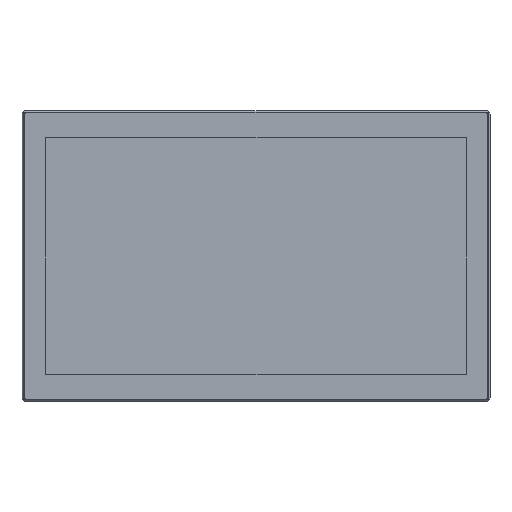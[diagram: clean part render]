
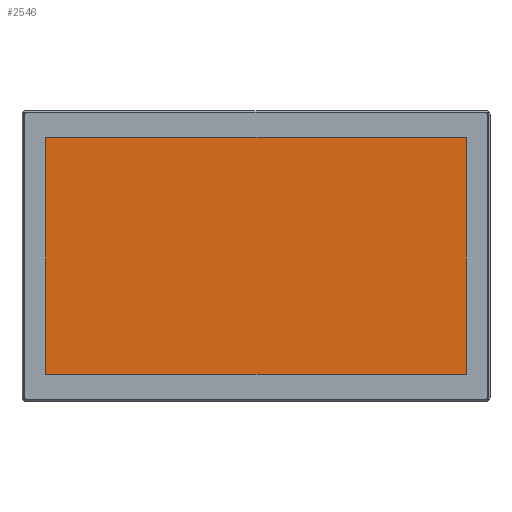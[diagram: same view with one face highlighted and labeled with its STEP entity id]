
A CAD part, top view. The second image highlights one B-rep face of the part: STEP entity #2546.
In plain terms, the highlighted planar face has unit normal (0, 0, 1).
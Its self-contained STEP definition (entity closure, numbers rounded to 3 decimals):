
#2546 = ADVANCED_FACE ( 'NONE', ( #81541 ), #99015, .T. ) ;
#3501 = VERTEX_POINT ( 'NONE', #55851 ) ;
#4758 = DIRECTION ( 'NONE',  ( 0., -1., 0. ) ) ;
#4772 = AXIS2_PLACEMENT_3D ( 'NONE', #98644, #12877, #108549 ) ;
#6421 = VECTOR ( 'NONE', #19416, 1000. ) ;
#12877 = DIRECTION ( 'NONE',  ( 0., 0., 1. ) ) ;
#14283 = EDGE_LOOP ( 'NONE', ( #92378, #95610, #105485, #28415 ) ) ;
#17132 = CARTESIAN_POINT ( 'NONE',  ( 27.18, 300.155, 65.84 ) ) ;
#19416 = DIRECTION ( 'NONE',  ( 0., 1., 0. ) ) ;
#21371 = LINE ( 'NONE', #105991, #6421 ) ;
#25665 = LINE ( 'NONE', #60505, #108880 ) ;
#28415 = ORIENTED_EDGE ( 'NONE', *, *, #77626, .T. ) ;
#31008 = CARTESIAN_POINT ( 'NONE',  ( 27.18, 4., 65.84 ) ) ;
#38053 = LINE ( 'NONE', #41625, #87243 ) ;
#41625 = CARTESIAN_POINT ( 'NONE',  ( 4., 30.445, 65.84 ) ) ;
#52038 = VECTOR ( 'NONE', #4758, 1000. ) ;
#54311 = VERTEX_POINT ( 'NONE', #94602 ) ;
#55615 = EDGE_CURVE ( 'NONE', #3501, #109895, #25665, .T. ) ;
#55851 = CARTESIAN_POINT ( 'NONE',  ( 505.42, 300.155, 65.84 ) ) ;
#56033 = LINE ( 'NONE', #31008, #52038 ) ;
#60505 = CARTESIAN_POINT ( 'NONE',  ( 4., 300.155, 65.84 ) ) ;
#67739 = CARTESIAN_POINT ( 'NONE',  ( 505.42, 30.445, 65.84 ) ) ;
#68111 = EDGE_CURVE ( 'NONE', #109895, #54311, #56033, .T. ) ;
#77505 = DIRECTION ( 'NONE',  ( 1., 0., 0. ) ) ;
#77626 = EDGE_CURVE ( 'NONE', #105488, #3501, #21371, .T. ) ;
#78051 = DIRECTION ( 'NONE',  ( -1., 0., 0. ) ) ;
#81541 = FACE_OUTER_BOUND ( 'NONE', #14283, .T. ) ;
#87243 = VECTOR ( 'NONE', #77505, 1000. ) ;
#89274 = EDGE_CURVE ( 'NONE', #54311, #105488, #38053, .T. ) ;
#92378 = ORIENTED_EDGE ( 'NONE', *, *, #55615, .T. ) ;
#94602 = CARTESIAN_POINT ( 'NONE',  ( 27.18, 30.445, 65.84 ) ) ;
#95610 = ORIENTED_EDGE ( 'NONE', *, *, #68111, .T. ) ;
#98644 = CARTESIAN_POINT ( 'NONE',  ( 4., 4., 65.84 ) ) ;
#99015 = PLANE ( 'NONE',  #4772 ) ;
#105485 = ORIENTED_EDGE ( 'NONE', *, *, #89274, .T. ) ;
#105488 = VERTEX_POINT ( 'NONE', #67739 ) ;
#105991 = CARTESIAN_POINT ( 'NONE',  ( 505.42, 4., 65.84 ) ) ;
#108549 = DIRECTION ( 'NONE',  ( 1., 0., 0. ) ) ;
#108880 = VECTOR ( 'NONE', #78051, 1000. ) ;
#109895 = VERTEX_POINT ( 'NONE', #17132 ) ;
